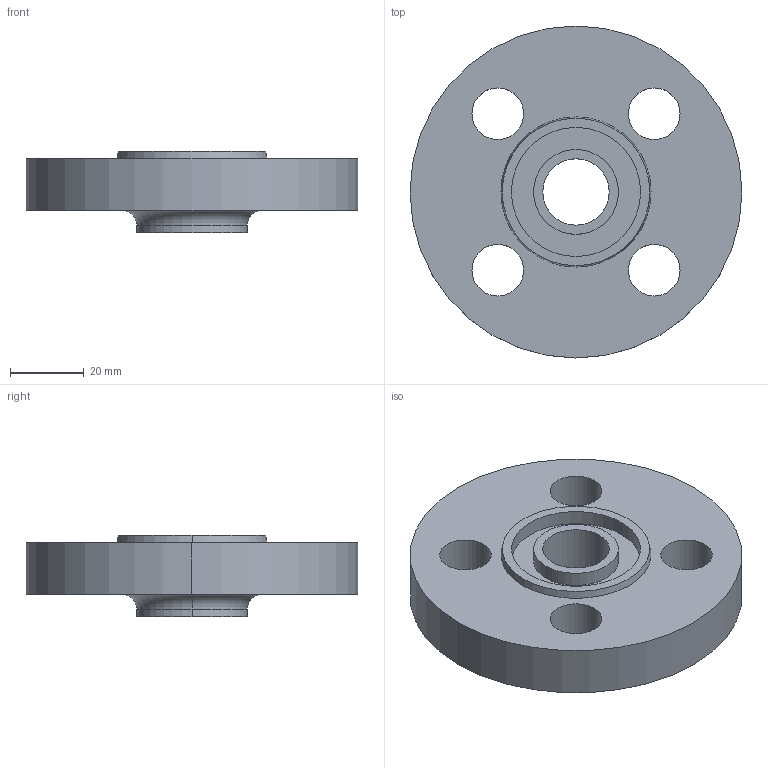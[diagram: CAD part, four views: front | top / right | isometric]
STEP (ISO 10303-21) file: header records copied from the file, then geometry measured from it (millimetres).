
FILE_DESCRIPTION (( 'STEP AP214' ), '1' );
FILE_NAME ('PN40 DN10 Type 12 - Type D Face.STEP', '2018-12-29T04:01:30', ( '' ), ( '' ), 'SwSTEP 2.0', 'SolidWorks 2019', '' );
FILE_SCHEMA (( 'AUTOMOTIVE_DESIGN' ));
Length unit declared in the file: millimetre
Products named in the file (1): PN40 DN10 Type 12 - Type D Face
Bounding box: 90 x 90 x 22 mm (x, y, z)
Volume: 79800.6 mm3; surface area: 20000.9 mm2
Topology: 1 solids, 1 shells, 28 faces, 64 edges, 42 vertices
Faces by surface type: cylinder 18, plane 6, torus 2, cone 2
Entity records: 870 total; most frequent: DIRECTION 166, CARTESIAN_POINT 135, ORIENTED_EDGE 128, AXIS2_PLACEMENT_3D 73, EDGE_CURVE 64, CIRCLE 44, VERTEX_POINT 42, EDGE_LOOP 42
